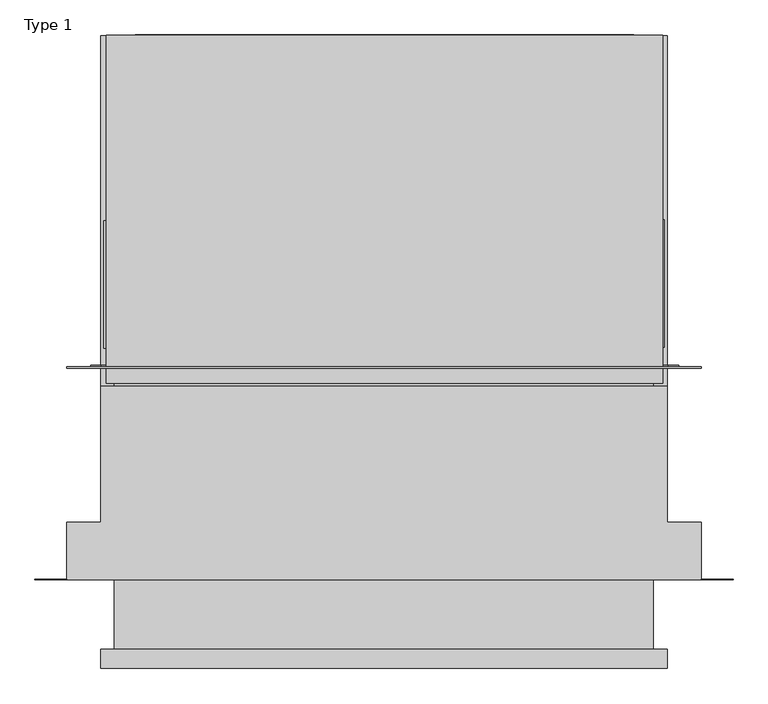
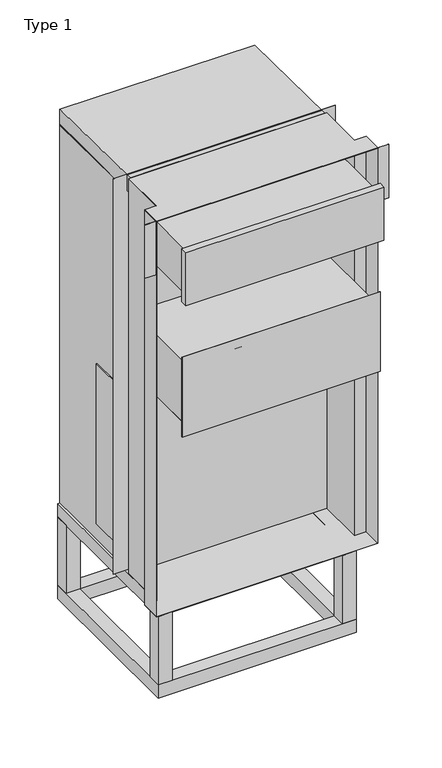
"""IFC4 building model written with IfcOpenShell, lengths in millimetres: proxy geometry, Uniflair_WMF0661_with_wallmountframe_and_Floorstand_BIM_Model : Type 1."""

from ifc_helpers import new_model, si_unit, point, frame, frame_2d, origin, place, context, project, spatial, polyline, circle_curve, trimmed, segment, composite_curve, outline, extrude, source, transform, mapped, element, save


def type_1_ab716bc1(model_context):
    return source(origin(), model_context, "Body", "SweptSolid", [
        extrude(outline(polyline([(-458.5, 964.8268395), (-534.5, 964.8268395), (-534.5, 1040.8268395), (-458.5, 1040.8268395), (-458.5, 964.8268395)])), frame((0.0, 0.0, 301.0), z_axis=(0.0, 0.0, 1.0), x_axis=(1.0, 0.0, 0.0)), (0.0, 0.0, 1.0), 389.0),
        extrude(outline(polyline([(534.5, 964.8268395), (458.5, 964.8268395), (458.5, 1040.8268395), (534.5, 1040.8268395), (534.5, 964.8268395)])), frame((0.0, 0.0, 301.0), z_axis=(0.0, 0.0, 1.0), x_axis=(1.0, 0.0, 0.0)), (0.0, 0.0, 1.0), 389.0),
        extrude(outline(polyline([(-458.5, 104.8268395), (-534.5, 104.8268395), (-534.5, 180.8268395), (-458.5, 180.8268395), (-458.5, 104.8268395)])), frame((0.0, 0.0, 301.0), z_axis=(0.0, 0.0, 1.0), x_axis=(1.0, 0.0, 0.0)), (0.0, 0.0, 1.0), 389.0),
        extrude(outline(polyline([(534.5, 104.8268395), (458.5, 104.8268395), (458.5, 180.8268395), (534.5, 180.8268395), (534.5, 104.8268395)])), frame((0.0, 0.0, 301.0), z_axis=(0.0, 0.0, 1.0), x_axis=(1.0, 0.0, 0.0)), (0.0, 0.0, 1.0), 389.0),
        extrude(outline(polyline([(534.5, 1040.8268395), (534.5, 104.8268395), (-534.5, 104.8268395), (-534.5, 1040.8268395), (534.5, 1040.8268395)]), holes=[polyline([(458.5, 964.8268395), (-458.5, 964.8268395), (-458.5, 180.8268395), (458.5, 180.8268395), (458.5, 964.8268395)])]), frame((0.0, 0.0, 225.0), z_axis=(0.0, 0.0, 1.0), x_axis=(1.0, 0.0, 0.0)), (0.0, 0.0, 1.0), 76.0),
        extrude(outline(polyline([(534.5, 1040.8268395), (534.5, 104.8268395), (-534.5, 104.8268395), (-534.5, 1040.8268395), (534.5, 1040.8268395)]), holes=[polyline([(458.5, 964.8268395), (-458.5, 964.8268395), (-458.5, 180.8268395), (458.5, 180.8268395), (458.5, 964.8268395)])]), frame((0.0, 0.0, 690.0), z_axis=(0.0, 0.0, 1.0), x_axis=(1.0, 0.0, 0.0)), (0.0, 0.0, 1.0), 76.0),
        extrude(outline(polyline([(523.8018802, 453.322499), (523.8018802, 693.322499), (529.0, 693.322499), (529.0, 453.322499), (523.8018802, 453.322499)])), frame((0.0, 0.0, 862.8466177), z_axis=(0.0, 0.0, 1.0), x_axis=(1.0, 0.0, 0.0)), (0.0, 0.0, 1.0), 911.3275465),
        extrude(outline(composite_curve([segment(trimmed(circle_curve(frame_2d((2763.0043914, 449.5834139)), 20.0), [point((2763.0043914, 469.5834139))], [point((2763.0043914, 429.5834139))], False, "CARTESIAN"), True, "CONTINUOUS"), segment(trimmed(circle_curve(frame_2d((2763.0043914, 449.5834139)), 20.0), [point((2763.0043914, 429.5834139))], [point((2763.0043914, 469.5834139))], False, "CARTESIAN"), True, "CONTINUOUS")], self_intersect=False)), frame((0.0, 412.8268395, 0.0), z_axis=(0.0, 1.0, 0.0), x_axis=(0.0, 0.0, 1.0)), (0.0, 0.0, 1.0), 3.0),
        extrude(outline(composite_curve([segment(trimmed(circle_curve(frame_2d((2763.0043914, -449.5834139)), 20.0), [point((2763.0043914, -469.5834139))], [point((2763.0043914, -429.5834139))], False, "CARTESIAN"), True, "CONTINUOUS"), segment(trimmed(circle_curve(frame_2d((2763.0043914, -449.5834139)), 20.0), [point((2763.0043914, -429.5834139))], [point((2763.0043914, -469.5834139))], False, "CARTESIAN"), True, "CONTINUOUS")], self_intersect=False)), frame((0.0, 412.8268395, 0.0), z_axis=(0.0, 1.0, 0.0), x_axis=(0.0, 0.0, 1.0)), (0.0, 0.0, 1.0), 3.0),
        extrude(outline(polyline([(2977.443345, -553.6016093), (827.1766168, -553.6016093), (795.3178142, -521.7428067), (795.3178142, 524.5388953), (827.1769097, 556.398405), (2977.4437593, 556.398405), (2997.5199213, 536.3223685), (2997.5199213, -533.5255729), (2977.443345, -553.6016093)])), frame((0.0, 415.8268395, 0.0), z_axis=(0.0, 1.0, 0.0), x_axis=(0.0, 0.0, 1.0)), (0.0, 0.0, 1.0), 3.0),
        extrude(outline(polyline([(-523.8018802, 691.3631917), (-523.8018802, 451.3631917), (-529.0, 451.3631917), (-529.0, 691.3631917), (-523.8018802, 691.3631917)])), frame((0.0, 0.0, 862.8466177), z_axis=(0.0, 0.0, 1.0), x_axis=(1.0, 0.0, 0.0)), (0.0, 0.0, 1.0), 911.3275465),
        extrude(outline(polyline([(-468.8041663, 1041.8268395), (471.1958337, 1041.8268395), (471.1958337, 1040.8268395), (-468.8041663, 1040.8268395), (-468.8041663, 1041.8268395)])), frame((0.0, 0.0, 1820.2781805), z_axis=(0.0, 0.0, 1.0), x_axis=(1.0, 0.0, 0.0)), (0.0, 0.0, 1.0), 380.0),
        extrude(outline(polyline([(-493.8018802, 1041.8268395), (201.1981198, 1041.8268395), (201.1981198, 1040.8268395), (-493.8018802, 1040.8268395), (-493.8018802, 1041.8268395)])), frame((0.0, 0.0, 858.3506603), z_axis=(0.0, 0.0, 1.0), x_axis=(1.0, 0.0, 0.0)), (0.0, 0.0, 1.0), 631.3275465),
        extrude(outline(polyline([(1040.8268395, 2920.743452), (385.1474404, 2928.5674831), (385.1474404, 3019.0), (1040.8268395, 3011.1453952), (1040.8268395, 2920.743452)])), frame((-523.8018802, 0.0, 0.0), z_axis=(1.0, 0.0, 0.0), x_axis=(0.0, 1.0, 0.0)), (0.0, 0.0, 1.0), 1049.9976998),
        extrude(outline(polyline([(2928.3296054, -523.8018802), (767.7926473, -523.8018802), (767.7926473, -519.8031702), (769.0139798, -519.8031702), (769.0139798, 522.2010067), (768.1751637, 522.200797), (768.1751637, 526.1968269), (2928.3296054, 526.1958388), (2928.3296054, -523.8018802)])), frame((0.0, 415.8268395, 0.0), z_axis=(0.0, 1.0, 0.0), x_axis=(0.0, 0.0, 1.0)), (0.0, 0.0, 1.0), 625.0),
        extrude(outline(polyline([(2253.0, 508.09413), (2253.0, -508.5), (1901.0, -508.5), (1901.0, 508.09413), (2253.0, 508.09413)]), holes=[polyline([(1902.0, -507.5), (2252.0, -507.5), (2252.0, 507.09413), (1902.0, 507.09413), (1902.0, -507.5)])]), frame((0.0, -117.3124501, 0.0), z_axis=(0.0, 1.0, 0.0), x_axis=(0.0, 0.0, 1.0)), (0.0, 0.0, 1.0), 530.1392896),
        extrude(outline(polyline([(-598.0, 14.0242383), (-658.5, 14.0242383), (-658.5, 15.030441), (-598.0, 15.030441), (-598.0, 14.0242383)])), frame((0.0, 0.0, 2717.0), z_axis=(0.0, 0.0, 1.0), x_axis=(1.0, 0.0, 0.0)), (0.0, 0.0, 1.0), 305.0),
        extrude(outline(polyline([(658.5, 14.0242383), (598.0, 14.0242383), (598.0, 15.1679781), (658.5, 15.1679781), (658.5, 14.0242383)])), frame((0.0, 0.0, 2717.0), z_axis=(0.0, 0.0, 1.0), x_axis=(1.0, 0.0, 0.0)), (0.0, 0.0, 1.0), 305.0),
        extrude(outline(polyline([(534.09413, 379.1067477), (534.09413, 122.1067477), (598.0, 122.1067477), (598.0, 14.0242383), (-598.0, 14.0242383), (-598.0, 122.1067477), (-534.5, 122.1067477), (-534.5, 379.1067477), (534.09413, 379.1067477)])), frame((0.0, 0.0, 3020.5646059), z_axis=(0.0, 0.0, 1.0), x_axis=(1.0, 0.0, 0.0)), (0.0, 0.0, 1.0), 1.4353941),
        extrude(outline(polyline([(534.09413, 379.1067477), (534.09413, 122.1067477), (598.0, 122.1067477), (598.0, 14.0242383), (-598.0, 14.0242383), (-598.0, 122.1067477), (-534.5, 122.1067477), (-534.5, 379.1067477), (534.09413, 379.1067477)])), frame((0.0, 0.0, 766.0), z_axis=(0.0, 0.0, 1.0), x_axis=(1.0, 0.0, 0.0)), (0.0, 0.0, 1.0), 1.4302096),
        extrude(outline(polyline([(534.5, -119.3124501), (-534.5, -119.3124501), (-534.5, -117.3124501), (534.5, -117.3124501), (534.5, -119.3124501)])), frame((0.0, 0.0, 1849.7834305), z_axis=(0.0, 0.0, 1.0), x_axis=(1.0, 0.0, 0.0)), (0.0, 0.0, 1.0), 454.0),
        extrude(outline(polyline([(2897.0, 508.09413), (2897.0, -508.5), (2645.0, -508.5), (2645.0, 508.09413), (2897.0, 508.09413)]), holes=[polyline([(2896.0, 507.09413), (2646.0, 507.09413), (2646.0, -507.5), (2896.0, -507.5), (2896.0, 507.09413)])]), frame((0.0, -117.3124501, 0.0), z_axis=(0.0, 1.0, 0.0), x_axis=(0.0, 0.0, 1.0)), (0.0, 0.0, 1.0), 530.1392896),
        extrude(outline(polyline([(534.5, -153.0325419), (-534.5, -153.0325419), (-534.5, -117.3124501), (534.5, -117.3124501), (534.5, -153.0325419)])), frame((0.0, 0.0, 2620.0), z_axis=(0.0, 0.0, 1.0), x_axis=(1.0, 0.0, 0.0)), (0.0, 0.0, 1.0), 302.0),
        extrude(outline(polyline([(-534.5, 122.1067477), (-534.5, 379.1067477), (534.09413, 379.1067477), (534.09413, 122.1067477), (598.0, 122.1067477), (598.0, 14.0242383), (597.0, 14.0242383), (597.0, 121.1067477), (533.09413, 121.1067477), (533.09413, 378.1067477), (-533.5, 378.1067477), (-533.5, 121.1067477), (-597.0, 121.1067477), (-597.0, 14.0242383), (-598.0, 14.0242383), (-598.0, 122.1067477), (-534.5, 122.1067477)])), frame((0.0, 0.0, 767.4302096), z_axis=(0.0, 0.0, 1.0), x_axis=(1.0, 0.0, 0.0)), (0.0, 0.0, 1.0), 2253.1343963),
        extrude(outline(polyline([(598.0, 412.8268395), (-598.0, 412.8268395), (-598.0, 415.8268395), (598.0, 415.8268395), (598.0, 412.8268395)])), frame((0.0, 0.0, 766.0), z_axis=(0.0, 0.0, 1.0), x_axis=(1.0, 0.0, 0.0)), (0.0, 0.0, 1.0), 2256.0),
    ])


if __name__ == "__main__":
    model = new_model("IFC4")
    model_context = context("Model", 3, world=origin())
    ifc_project = project(units=[si_unit("LENGTHUNIT", "METRE", prefix="MILLI")], contexts=[model_context])
    site = spatial("IfcSite", under=ifc_project)
    building = spatial("IfcBuilding", under=site)
    placement = place(None, origin())
    type_1_shape = type_1_ab716bc1(model_context)
    element("IfcBuildingElementProxy", 1, Name="Uniflair_WMF0661_with_wallmountframe_and_Floorstand_BIM_Model : Type 1", ObjectType="Uniflair_WMF0661_with_wallmountframe_and_Floorstand_BIM_Model : Type 1", at=placement, inside=building, context=model_context, shape_type="MappedRepresentation", body=[
        mapped(type_1_shape, transform((0.0, 0.0, 0.0), x_axis=(1.0, 0.0, 0.0), y_axis=(0.0, 1.0, 0.0), z_axis=(0.0, 0.0, 1.0))),
    ])
    save(model, "model.ifc")
